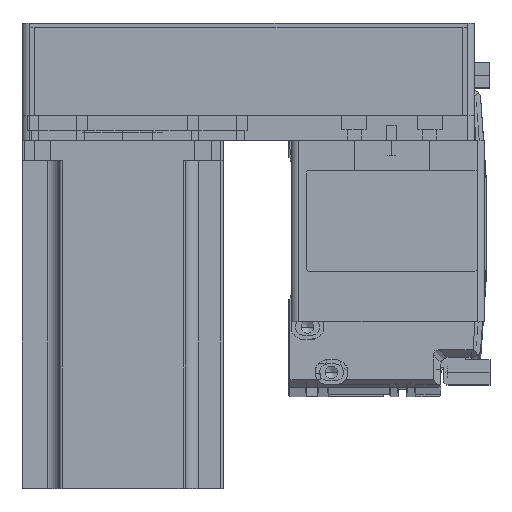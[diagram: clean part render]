
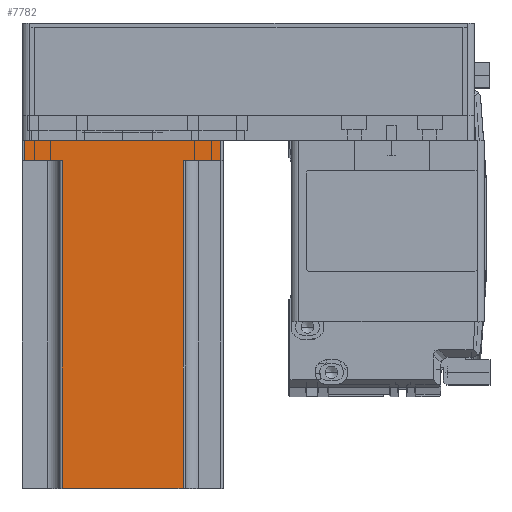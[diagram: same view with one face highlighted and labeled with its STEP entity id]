
A CAD part, top view. The second image highlights one B-rep face of the part: STEP entity #7782.
In plain terms, the highlighted planar face has unit normal (0, 0, 1) as drawn and (0, 1, 0) by its records, which use the part's own axes.
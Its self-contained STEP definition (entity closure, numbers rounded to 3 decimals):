
#65 = EDGE_CURVE ( 'NONE', #2632, #28580, #13201, .T. ) ;
#706 = EDGE_CURVE ( 'NONE', #49429, #57979, #34157, .T. ) ;
#2632 = VERTEX_POINT ( 'NONE', #7036 ) ;
#3986 = ORIENTED_EDGE ( 'NONE', *, *, #44770, .T. ) ;
#4461 = VERTEX_POINT ( 'NONE', #39608 ) ;
#7036 = CARTESIAN_POINT ( 'NONE',  ( 24., 40., 138.3 ) ) ;
#7175 = VERTEX_POINT ( 'NONE', #60208 ) ;
#7400 = VECTOR ( 'NONE', #48176, 1000. ) ;
#7548 = CARTESIAN_POINT ( 'NONE',  ( 39., 40., 0. ) ) ;
#7782 = ADVANCED_FACE ( 'NONE', ( #17114 ), #48314, .F. ) ;
#8998 = EDGE_LOOP ( 'NONE', ( #37957, #3986, #48271, #9187, #24153, #17421, #24195, #40227 ) ) ;
#9187 = ORIENTED_EDGE ( 'NONE', *, *, #16793, .T. ) ;
#10030 = DIRECTION ( 'NONE',  ( 0., -1., 0. ) ) ;
#10307 = DIRECTION ( 'NONE',  ( 0., 0., -1. ) ) ;
#11139 = DIRECTION ( 'NONE',  ( 0., 0., -1. ) ) ;
#13201 = LINE ( 'NONE', #47632, #37263 ) ;
#13911 = DIRECTION ( 'NONE',  ( -1., 0., 0. ) ) ;
#14547 = CARTESIAN_POINT ( 'NONE',  ( 40., 40., 0. ) ) ;
#16189 = VECTOR ( 'NONE', #10307, 1000. ) ;
#16248 = LINE ( 'NONE', #35286, #40298 ) ;
#16793 = EDGE_CURVE ( 'NONE', #2632, #57979, #20464, .T. ) ;
#17114 = FACE_OUTER_BOUND ( 'NONE', #8998, .T. ) ;
#17421 = ORIENTED_EDGE ( 'NONE', *, *, #33985, .T. ) ;
#17989 = CARTESIAN_POINT ( 'NONE',  ( 39., 40., 8. ) ) ;
#20049 = CARTESIAN_POINT ( 'NONE',  ( 24., 40., 8. ) ) ;
#20464 = LINE ( 'NONE', #39960, #55754 ) ;
#20819 = DIRECTION ( 'NONE',  ( 1., 0., 0. ) ) ;
#21376 = VECTOR ( 'NONE', #21940, 1000. ) ;
#21940 = DIRECTION ( 'NONE',  ( -1., 0., 0. ) ) ;
#22855 = EDGE_CURVE ( 'NONE', #58656, #4461, #16248, .T. ) ;
#24153 = ORIENTED_EDGE ( 'NONE', *, *, #706, .F. ) ;
#24195 = ORIENTED_EDGE ( 'NONE', *, *, #47730, .T. ) ;
#24752 = VECTOR ( 'NONE', #32737, 1000. ) ;
#24878 = CARTESIAN_POINT ( 'NONE',  ( 39., 40., 138.3 ) ) ;
#28580 = VERTEX_POINT ( 'NONE', #40100 ) ;
#28975 = LINE ( 'NONE', #24878, #16189 ) ;
#32737 = DIRECTION ( 'NONE',  ( 0., 0., 1. ) ) ;
#33985 = EDGE_CURVE ( 'NONE', #49429, #61930, #28975, .T. ) ;
#34157 = LINE ( 'NONE', #44401, #21376 ) ;
#35286 = CARTESIAN_POINT ( 'NONE',  ( -25., 40., 8. ) ) ;
#37263 = VECTOR ( 'NONE', #13911, 1000. ) ;
#37484 = LINE ( 'NONE', #61427, #24752 ) ;
#37957 = ORIENTED_EDGE ( 'NONE', *, *, #22855, .T. ) ;
#38851 = CARTESIAN_POINT ( 'NONE',  ( 40., 40., 138.3 ) ) ;
#39608 = CARTESIAN_POINT ( 'NONE',  ( -24., 40., 8. ) ) ;
#39960 = CARTESIAN_POINT ( 'NONE',  ( 24., 40., 138.3 ) ) ;
#40100 = CARTESIAN_POINT ( 'NONE',  ( -24., 40., 138.3 ) ) ;
#40227 = ORIENTED_EDGE ( 'NONE', *, *, #61440, .T. ) ;
#40298 = VECTOR ( 'NONE', #20819, 1000. ) ;
#42524 = VECTOR ( 'NONE', #59758, 1000. ) ;
#43644 = DIRECTION ( 'NONE',  ( 1., 0., 0. ) ) ;
#44401 = CARTESIAN_POINT ( 'NONE',  ( 25., 40., 8. ) ) ;
#44770 = EDGE_CURVE ( 'NONE', #4461, #28580, #56836, .T. ) ;
#47632 = CARTESIAN_POINT ( 'NONE',  ( 40., 40., 138.3 ) ) ;
#47730 = EDGE_CURVE ( 'NONE', #61930, #7175, #60095, .T. ) ;
#48176 = DIRECTION ( 'NONE',  ( -1., 0., 0. ) ) ;
#48271 = ORIENTED_EDGE ( 'NONE', *, *, #65, .F. ) ;
#48314 = PLANE ( 'NONE',  #52432 ) ;
#49429 = VERTEX_POINT ( 'NONE', #17989 ) ;
#52432 = AXIS2_PLACEMENT_3D ( 'NONE', #38851, #10030, #43644 ) ;
#54892 = CARTESIAN_POINT ( 'NONE',  ( -24., 40., 138.3 ) ) ;
#55754 = VECTOR ( 'NONE', #11139, 1000. ) ;
#56836 = LINE ( 'NONE', #54892, #42524 ) ;
#57979 = VERTEX_POINT ( 'NONE', #20049 ) ;
#58656 = VERTEX_POINT ( 'NONE', #60960 ) ;
#59758 = DIRECTION ( 'NONE',  ( 0., 0., 1. ) ) ;
#60095 = LINE ( 'NONE', #14547, #7400 ) ;
#60208 = CARTESIAN_POINT ( 'NONE',  ( -39., 40., 0. ) ) ;
#60960 = CARTESIAN_POINT ( 'NONE',  ( -39., 40., 8. ) ) ;
#61427 = CARTESIAN_POINT ( 'NONE',  ( -39., 40., 138.3 ) ) ;
#61440 = EDGE_CURVE ( 'NONE', #7175, #58656, #37484, .T. ) ;
#61930 = VERTEX_POINT ( 'NONE', #7548 ) ;
